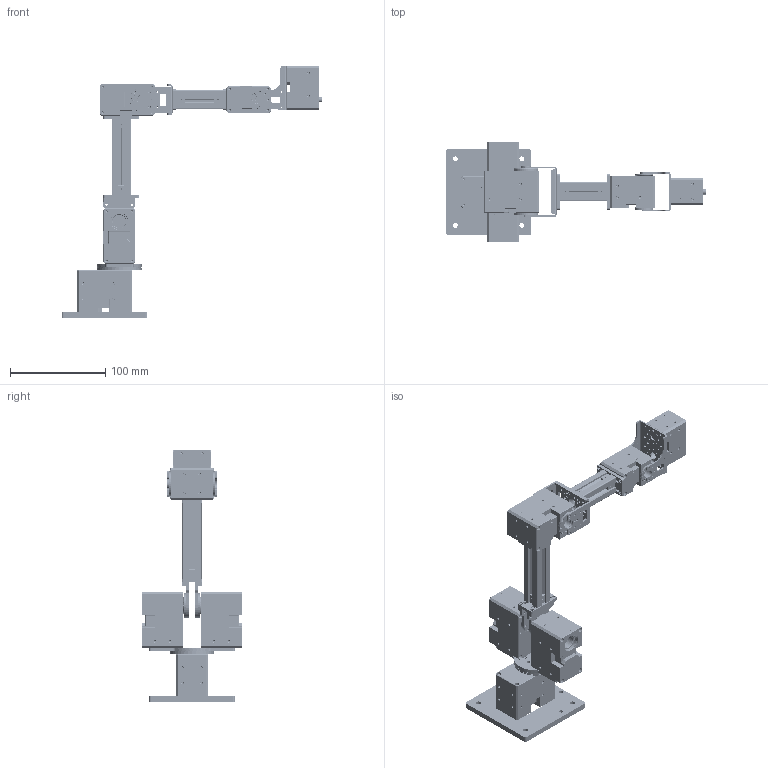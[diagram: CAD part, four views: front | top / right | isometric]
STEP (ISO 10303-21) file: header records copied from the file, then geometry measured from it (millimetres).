
FILE_DESCRIPTION(/* description */ (''),/* implementation_level */ '2;1');
FILE_NAME(/* name */ 'C:\Users\robos\OneDrive\ドキュメント\Inventor\OpenMANIPULATOR\OpenMANIPULATOR-MAX\urdf変換\OpenMANIPULATOR-MAX.stp',/* time_stamp */ '2020-11-05T02:17:19+09:00',/* author */ ('Y.Shibata'),/* organization */ (''),/* preprocessor_version */ 'ST-DEVELOPER v15.2',/* originating_system */ 'Autodesk Inventor 2014',/* authorisation */ '');
FILE_SCHEMA (('AUTOMOTIVE_DESIGN { 1 0 10303 214 3 1 1 }'));
Length unit declared in the file: millimetre
Products named in the file (24): om-max-id11-1_gnd_base; XM540-W270; washer_BA3047; core_BA3047; om-max_link1; om-max-id12-1_yaw_plate; HN13_N101; om-max_link2; om-max-id13-1_pitch_arm; FJ13-ALF5; (5シリーズ)HFS5-2020-80; BEARING_F6701ZZ; om-max_link3; FR13_H101; HN13_I101; (5シリーズ)HFS5-2020-50; XM430-W350; igus_JFM-1113-05; om-max_link4; FR12_H104; HN12_N101; HN12_I101; om-max_link5_dummy; OpenMANIPULATOR-MAX
Assembly tree (34 placements, depth 3):
  OpenMANIPULATOR-MAX
    om-max_link1
      om-max-id11-1_gnd_base
      XM540-W270
      washer_BA3047
      core_BA3047
    om-max_link2
      om-max-id12-1_yaw_plate
      XM540-W270  x2
      HN13_N101
    om-max_link3
      HN13_N101  x2
      om-max-id13-1_pitch_arm  x2
      FJ13-ALF5  x2
      (5シリーズ)HFS5-2020-80
      XM540-W270
      BEARING_F6701ZZ
    om-max_link4
      FR13_H101
      HN13_N101
      HN13_I101
      FJ13-ALF5  x2
      (5シリーズ)HFS5-2020-50
      XM430-W350
      igus_JFM-1113-05
    om-max_link5_dummy
      FR12_H104
      HN12_N101
      HN12_I101
      XM430-W350
Bounding box: 273.95 x 106 x 264.75 mm (x, y, z)
Volume: 517162.2 mm3; surface area: 213074.9 mm2
Topology: 62 solids, 63 shells, 3671 faces, 9236 edges, 5977 vertices
Faces by surface type: plane 1777, cylinder 1419, cone 430, bspline 16, sphere 15, torus 14
Full cylindrical faces by diameter (mm): 1.567 x4, 1.6 x20, 2 x48, 2.013 x28, 2.05 x232, 2.1 x2, 2.5 x112, 2.6 x76, 2.7 x1, 3.2 x4, 4 x64, 4.1 x4, 4.2 x2, 4.8 x48, 5 x4, 5.1 x8, 5.8 x2, 6 x1, 8 x8, 9.5 x1, 9.9 x4, 10 x6, 10.1 x3, 10.7 x1, 11 x2, 11.1 x1, 11.6 x1, 11.9 x1, 12 x2, 12.2 x1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
Entity records: 47936 total; most frequent: CARTESIAN_POINT 9183, DIRECTION 7982, ORIENTED_EDGE 6830, EDGE_CURVE 3415, AXIS2_PLACEMENT_3D 3102, EDGE_LOOP 2750, VERTEX_POINT 2555, LINE 1778
